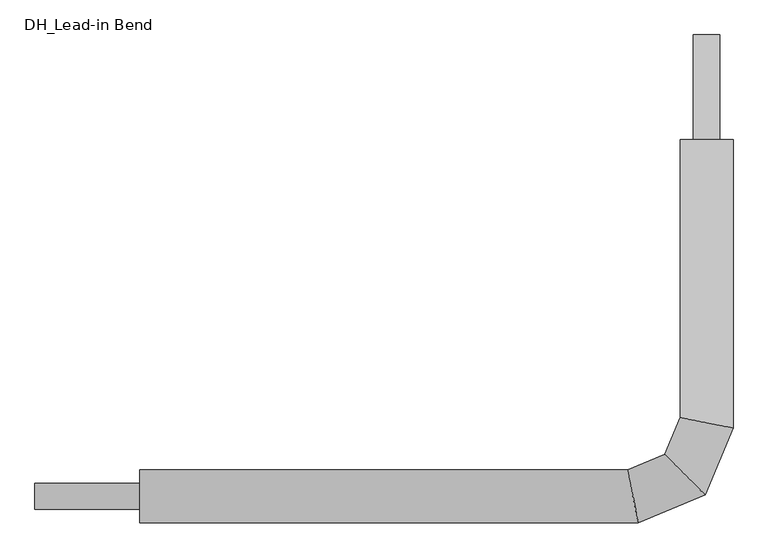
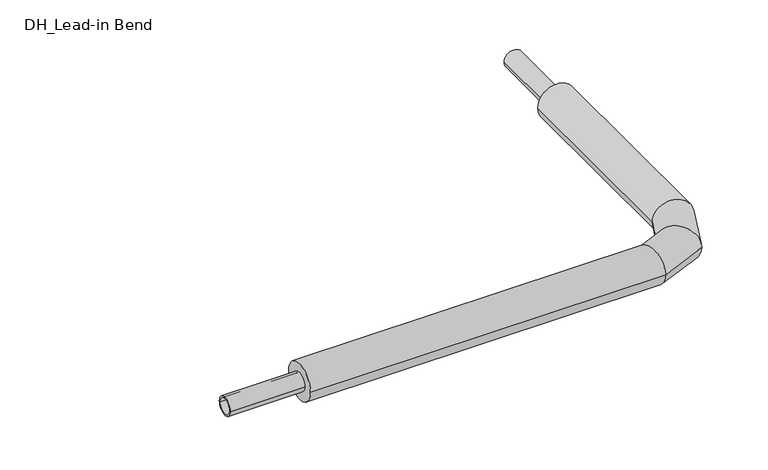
"""IFC4 building model written with IfcOpenShell, lengths in millimetres: pipe fitting geometry, DH_Lead-in Bend : RVT/RVX/RTX UNO 11 Heating."""

from ifc_helpers import new_model, si_unit, point, frame, origin, origin_2d, place, context, project, spatial, circle_curve, ellipse_curve, trimmed, segment, composite_curve, outline, extrude, source, transform, mapped, element, save
from ifc_brep_helpers import plane_surface, cylinder_surface, advanced_brep


def dh_lead_in_bend_a209e62e(model_context):
    return source(origin(), model_context, "Body", "SolidModel", [
        advanced_brep(
        [(-1350.0, -63.0, 0.0), (-1350.0, 63.0, 0.0), (-162.9685209, -63.0, 0.0), (-188.0314791, 63.0, 0.0), (63.0, 850.0, 0.0), (-63.0, 850.0, 0.0), (-63.0, 188.0314791, 0.0), (63.0, 162.9685209, 0.0), (-3.1846474, 3.1846474, 0.0), (-99.6208724, 99.6208724, 0.0)],
        [
            (0, 1, circle_curve(frame((-1350.0, 0.0, 0.0), z_axis=(-1.0, 0.0, 0.0), x_axis=(0.0, 1.0, 0.0)), 63.0)),
            (1, 0, circle_curve(frame((-1350.0, 0.0, 0.0), z_axis=(-1.0, 0.0, 0.0), x_axis=(0.0, 1.0, 0.0)), 63.0)),
            (0, 2),
            (2, 3, ellipse_curve(frame((-175.5, 0.0, 0.0), z_axis=(-0.9807852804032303, -0.195090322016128, 0.0), x_axis=(-0.19509032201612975, 0.9807852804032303, 0.0)), 64.234243, 63.0)),
            (3, 1),
            (3, 2, ellipse_curve(frame((-175.5, 0.0, 0.0), z_axis=(-0.9807852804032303, -0.195090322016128, 0.0), x_axis=(-0.19509032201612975, 0.9807852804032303, 0.0)), 64.234243, 63.0)),
            (4, 5, circle_curve(frame((0.0, 850.0, 0.0), z_axis=(0.0, 1.0, 0.0), x_axis=(-1.0, 0.0, 0.0)), 63.0)),
            (5, 4, circle_curve(frame((0.0, 850.0, 0.0), z_axis=(0.0, 1.0, 0.0), x_axis=(-1.0, 0.0, 0.0)), 63.0)),
            (6, 7, ellipse_curve(frame((0.0, 175.5, 0.0), z_axis=(0.19509032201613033, 0.9807852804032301, 0.0), x_axis=(0.9807852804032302, -0.1950903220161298, 0.0)), 64.234243, 63.0)),
            (7, 4),
            (5, 6),
            (7, 6, ellipse_curve(frame((0.0, 175.5, 0.0), z_axis=(0.19509032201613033, 0.9807852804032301, 0.0), x_axis=(0.9807852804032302, -0.1950903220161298, 0.0)), 64.234243, 63.0)),
            (2, 8),
            (8, 9, ellipse_curve(frame((-51.4027599, 51.4027599, 0.0), z_axis=(-0.7071067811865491, -0.7071067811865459, 0.0), x_axis=(-0.7071067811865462, 0.707106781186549, 0.0)), 68.1907086, 63.0)),
            (9, 3),
            (9, 8, ellipse_curve(frame((-51.4027599, 51.4027599, 0.0), z_axis=(-0.7071067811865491, -0.7071067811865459, 0.0), x_axis=(-0.7071067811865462, 0.707106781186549, 0.0)), 68.1907086, 63.0)),
            (8, 7),
            (6, 9),
        ],
        [
            plane_surface(frame((-1350.0, 0.0, 0.0), z_axis=(-1.0, 0.0, 0.0), x_axis=(0.0, 0.0, 1.0))),
            cylinder_surface(frame((-1350.0, 0.0, 0.0), z_axis=(-1.0, 0.0, 0.0), x_axis=(0.0, 1.0, 0.0)), 63.0),
            plane_surface(frame((0.0, 850.0, 0.0), z_axis=(0.0, 1.0, 0.0), x_axis=(0.0, 0.0, 1.0))),
            cylinder_surface(frame((0.0, 175.5, 0.0), z_axis=(0.0, -1.0, 0.0), x_axis=(-1.0, 0.0, 0.0)), 63.0),
            cylinder_surface(frame((-175.5, 0.0, 0.0), z_axis=(-0.923879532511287, -0.38268343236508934, 0.0), x_axis=(-0.38268343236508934, 0.923879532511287, 0.0)), 63.0),
            cylinder_surface(frame((-51.4027599, 51.4027599, 0.0), z_axis=(-0.38268343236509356, -0.9238795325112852, 0.0), x_axis=(-0.9238795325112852, 0.38268343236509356, 0.0)), 63.0),
        ],
        [
            (0, [[1, 2]]),
            (1, [[-1, 3, 4, 5]]),
            (1, [[-2, -5, 6, -3]]),
            (2, [[7, 8]]),
            (3, [[9, 10, -8, 11]]),
            (3, [[12, -11, -7, -10]]),
            (4, [[-4, 13, 14, 15]]),
            (4, [[-6, -15, 16, -13]]),
            (5, [[-14, 17, -9, 18]]),
            (5, [[-16, -18, -12, -17]]),
        ],
    ),
        extrude(outline(composite_curve([segment(trimmed(circle_curve(origin_2d(), 31.5), [point((-31.5, 0.0))], [point((31.5, 0.0))], False, "CARTESIAN"), True, "CONTINUOUS"), segment(trimmed(circle_curve(origin_2d(), 31.5), [point((31.5, 0.0))], [point((-31.5, 0.0))], False, "CARTESIAN"), True, "CONTINUOUS")], self_intersect=False), holes=[composite_curve([segment(trimmed(circle_curve(origin_2d(), 25.7), [point((-25.7, 0.0))], [point((25.7, 0.0))], True, "CARTESIAN"), True, "CONTINUOUS"), segment(trimmed(circle_curve(origin_2d(), 25.7), [point((25.7, 0.0))], [point((-25.7, 0.0))], True, "CARTESIAN"), True, "CONTINUOUS")], self_intersect=False)]), frame((-1600.0, 0.0, 0.0), z_axis=(1.0, 0.0, 0.0), x_axis=(0.0, 1.0, 0.0)), (0.0, 0.0, 1.0), 250.0),
        extrude(outline(composite_curve([segment(trimmed(circle_curve(origin_2d(), 31.5), [point((0.0, 31.5))], [point((0.0, -31.5))], False, "CARTESIAN"), True, "CONTINUOUS"), segment(trimmed(circle_curve(origin_2d(), 31.5), [point((0.0, -31.5))], [point((0.0, 31.5))], False, "CARTESIAN"), True, "CONTINUOUS")], self_intersect=False), holes=[composite_curve([segment(trimmed(circle_curve(origin_2d(), 25.7), [point((0.0, 25.7))], [point((0.0, -25.7))], True, "CARTESIAN"), True, "CONTINUOUS"), segment(trimmed(circle_curve(origin_2d(), 25.7), [point((0.0, -25.7))], [point((0.0, 25.7))], True, "CARTESIAN"), True, "CONTINUOUS")], self_intersect=False)]), frame((0.0, 850.0, 0.0), z_axis=(0.0, 1.0, 0.0), x_axis=(0.0, 0.0, 1.0)), (0.0, 0.0, 1.0), 250.0),
    ])


if __name__ == "__main__":
    model = new_model("IFC4")
    model_context = context("Model", 3, world=origin())
    ifc_project = project(units=[si_unit("LENGTHUNIT", "METRE", prefix="MILLI")], contexts=[model_context])
    site = spatial("IfcSite", under=ifc_project)
    building = spatial("IfcBuilding", under=site)
    placement = place(None, origin())
    dh_lead_in_bend_shape = dh_lead_in_bend_a209e62e(model_context)
    element("IfcPipeFitting", 1, ObjectType="DH_Lead-in Bend : RVT/RVX/RTX UNO 11 Heating", at=placement, inside=building, context=model_context, shape_type="MappedRepresentation", body=[
        mapped(dh_lead_in_bend_shape, transform((0.0, 0.0, 0.0), x_axis=(1.0, 0.0, 0.0), y_axis=(0.0, 1.0, 0.0), z_axis=(0.0, 0.0, 1.0))),
    ])
    save(model, "model.ifc")
